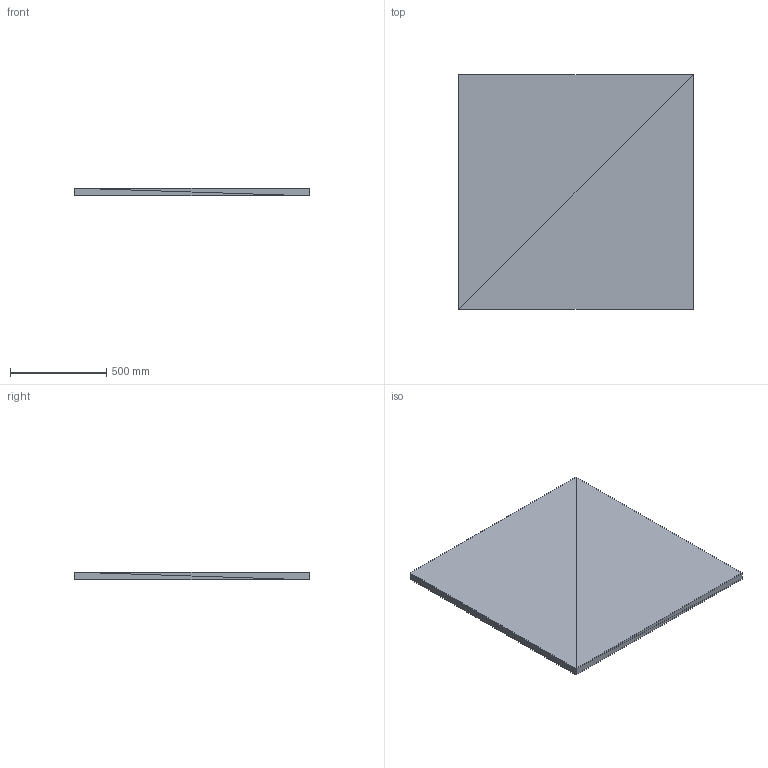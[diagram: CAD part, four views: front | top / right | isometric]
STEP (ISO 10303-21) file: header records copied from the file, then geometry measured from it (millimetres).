
FILE_DESCRIPTION(('ISINAC STEP AP214'),'2;1');
FILE_NAME('ISINAC_C.1220_40mm_ADHESIVO','2026-05-03T10:49:19',('ISINAC'),('www.isinac.com'),'ISINAC BIM Generator 1.0','','');
FILE_SCHEMA(('AUTOMOTIVE_DESIGN'));
Length unit declared in the file: millimetre
Products named in the file (1): ISINAC_C.1220_40mm_ADHESIVO
Bounding box: 1220 x 1220 x 40 mm (x, y, z)
Surface area: 3172000 mm2 (no closed solid volume)
Topology: 0 solids, 12 shells, 12 faces, 36 edges, 36 vertices
Faces by surface type: plane 12
Entity records: 145 total; most frequent: CARTESIAN_POINT 48, DIRECTION 24, POLY_LOOP 12, FACE_OUTER_BOUND 12, AXIS2_PLACEMENT_3D 12, PLANE 12, FACE_SURFACE 12, CLOSED_SHELL 1
